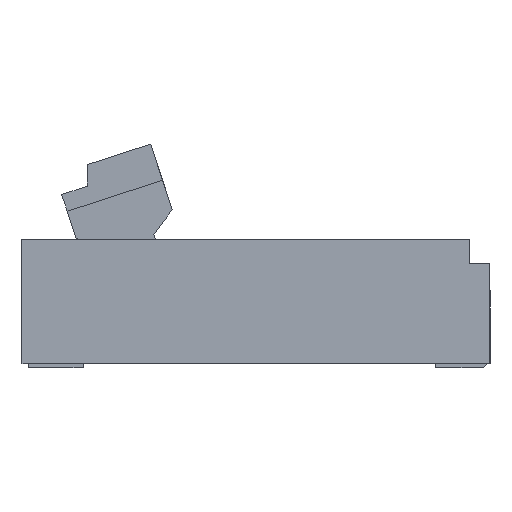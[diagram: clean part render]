
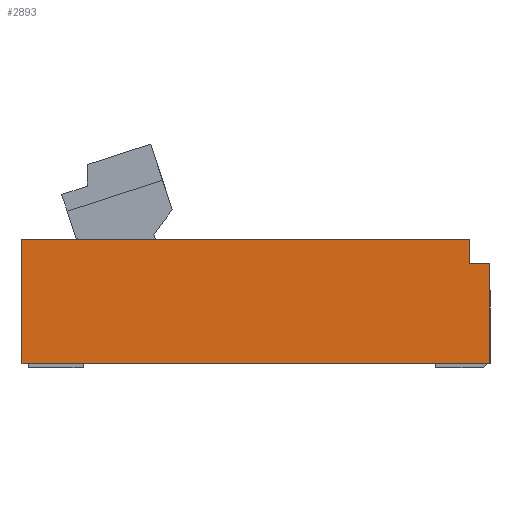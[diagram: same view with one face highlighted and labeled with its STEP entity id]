
A CAD part, left-side view. The second image highlights one B-rep face of the part: STEP entity #2893.
In plain terms, the highlighted planar face has unit normal (-1, 0, 0).
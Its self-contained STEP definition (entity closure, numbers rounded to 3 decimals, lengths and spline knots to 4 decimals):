
#2893=ADVANCED_FACE('',(#6993),#4915,.T.);
#4915=PLANE('',#50166);
#6993=FACE_OUTER_BOUND('',#9307,.T.);
#9307=EDGE_LOOP('',(#22621,#22622,#22623,#22624,#22625,#22626));
#22621=ORIENTED_EDGE('',*,*,#33866,.F.);
#22622=ORIENTED_EDGE('',*,*,#29060,.F.);
#22623=ORIENTED_EDGE('',*,*,#27358,.T.);
#22624=ORIENTED_EDGE('',*,*,#27463,.T.);
#22625=ORIENTED_EDGE('',*,*,#33867,.T.);
#22626=ORIENTED_EDGE('',*,*,#27769,.F.);
#22894=VERTEX_POINT('',#62207);
#22895=VERTEX_POINT('',#62209);
#22998=VERTEX_POINT('',#62420);
#23239=VERTEX_POINT('',#63032);
#23240=VERTEX_POINT('',#63034);
#24288=VERTEX_POINT('',#65535);
#27358=EDGE_CURVE('',#22895,#22894,#34997,.T.);
#27463=EDGE_CURVE('',#22894,#22998,#35102,.T.);
#27769=EDGE_CURVE('',#23239,#23240,#35408,.T.);
#29060=EDGE_CURVE('',#22895,#24288,#36688,.T.);
#33866=EDGE_CURVE('',#24288,#23239,#41153,.T.);
#33867=EDGE_CURVE('',#22998,#23240,#41154,.T.);
#34997=LINE('',#62208,#41499);
#35102=LINE('',#62421,#41604);
#35408=LINE('',#63033,#41910);
#36688=LINE('',#65534,#43190);
#41153=LINE('',#75143,#47655);
#41154=LINE('',#75145,#47656);
#41499=VECTOR('',#50515,1.);
#41604=VECTOR('',#50628,1.);
#41910=VECTOR('',#51064,1.);
#43190=VECTOR('',#52690,1.);
#47655=VECTOR('',#61643,1.);
#47656=VECTOR('',#61646,1.);
#50166=AXIS2_PLACEMENT_3D('',#75146,#61647,#61648);
#50515=DIRECTION('',(0.,-1.,0.));
#50628=DIRECTION('',(0.,0.,1.));
#51064=DIRECTION('',(0.,0.,-1.));
#52690=DIRECTION('',(0.,0.,1.));
#61643=DIRECTION('',(0.,-1.,0.));
#61646=DIRECTION('',(0.,1.,0.));
#61647=DIRECTION('',(-1.,0.,0.));
#61648=DIRECTION('',(0.,-1.,0.));
#62207=CARTESIAN_POINT('',(0.,0.,0.));
#62208=CARTESIAN_POINT('',(0.,3.45,0.));
#62209=CARTESIAN_POINT('',(0.,3.45,0.));
#62420=CARTESIAN_POINT('',(0.,0.,0.74));
#62421=CARTESIAN_POINT('',(0.,0.,0.));
#63032=CARTESIAN_POINT('',(0.,0.15,0.92));
#63033=CARTESIAN_POINT('',(0.,0.15,0.92));
#63034=CARTESIAN_POINT('',(0.,0.15,0.74));
#65534=CARTESIAN_POINT('',(0.,3.45,0.));
#65535=CARTESIAN_POINT('',(0.,3.45,0.92));
#75143=CARTESIAN_POINT('',(0.,3.45,0.92));
#75145=CARTESIAN_POINT('',(0.,0.,0.74));
#75146=CARTESIAN_POINT('',(0.,3.45,0.));
